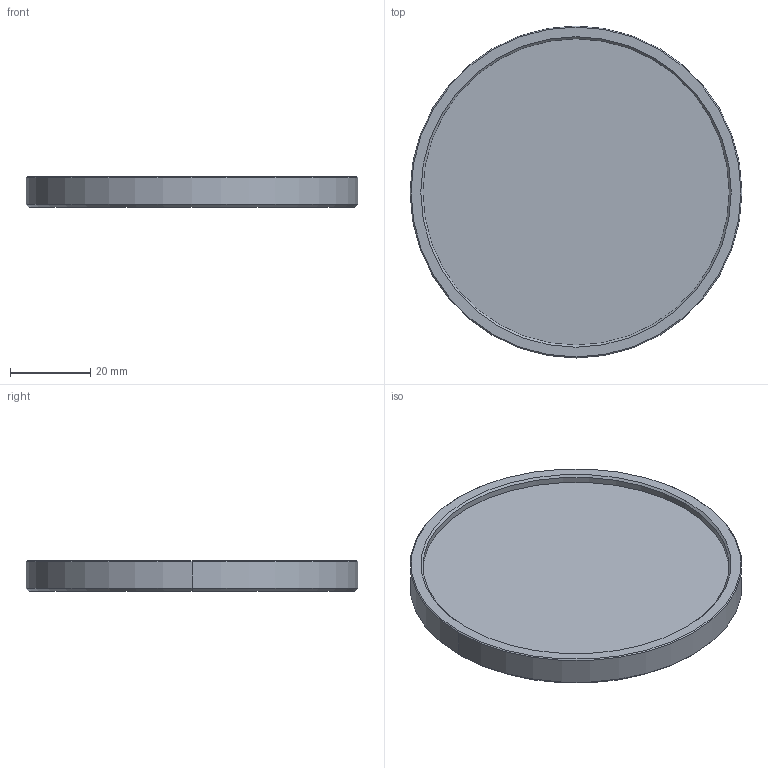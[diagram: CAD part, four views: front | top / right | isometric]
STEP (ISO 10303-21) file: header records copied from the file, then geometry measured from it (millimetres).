
FILE_DESCRIPTION((''),'2;1');
FILE_NAME('MSC-4001','2007-09-27T',('glafferty'),('Pleasant Precision, Inc. (419)675-0556'),'PRO/ENGINEER BY PARAMETRIC TECHNOLOGY CORPORATION, 2006080','PRO/ENGINEER BY PARAMETRIC TECHNOLOGY CORPORATION, 2006080','');
FILE_SCHEMA(('CONFIG_CONTROL_DESIGN'));
Length unit declared in the file: inch
Products named in the file (1): MSC-4001
Bounding box: 82.55 x 82.55 x 7.62 mm (x, y, z)
Volume: 31402.1 mm3; surface area: 12940.7 mm2
Topology: 1 solids, 1 shells, 13 faces, 24 edges, 14 vertices
Faces by surface type: cone 6, cylinder 4, plane 3
Entity records: 364 total; most frequent: DIRECTION 64, CARTESIAN_POINT 51, ORIENTED_EDGE 48, AXIS2_PLACEMENT_3D 27, EDGE_CURVE 24, VERTEX_POINT 14, EDGE_LOOP 14, CIRCLE 14
